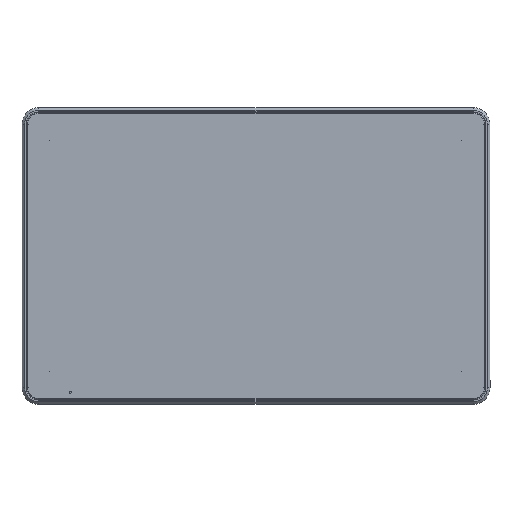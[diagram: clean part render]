
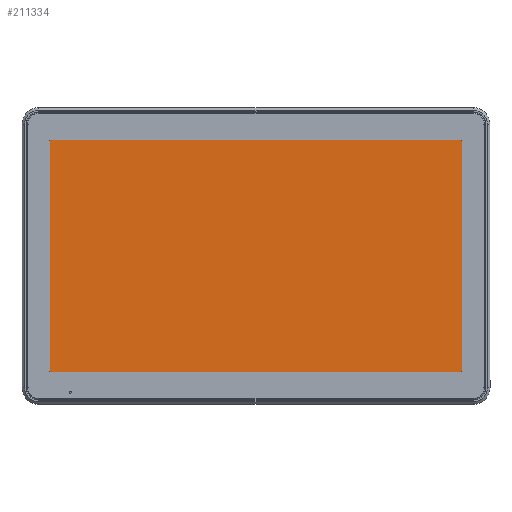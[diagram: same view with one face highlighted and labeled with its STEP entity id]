
A CAD part, top view. The second image highlights one B-rep face of the part: STEP entity #211334.
In plain terms, the highlighted planar face has unit normal (0, 0, 1).
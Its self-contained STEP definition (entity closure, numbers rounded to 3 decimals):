
#15497=FACE_OUTER_BOUND('',#26362,.T.);
#26362=EDGE_LOOP('',(#173401,#173402,#173403,#173404));
#50747=LINE('',#347311,#72933);
#50750=LINE('',#347317,#72936);
#50753=LINE('',#347323,#72939);
#50756=LINE('',#347327,#72942);
#72933=VECTOR('',#265840,10.);
#72936=VECTOR('',#265845,10.);
#72939=VECTOR('',#265850,10.);
#72942=VECTOR('',#265855,10.);
#92717=VERTEX_POINT('',#347308);
#92718=VERTEX_POINT('',#347310);
#92720=VERTEX_POINT('',#347316);
#92722=VERTEX_POINT('',#347322);
#120518=EDGE_CURVE('',#92718,#92717,#50747,.T.);
#120521=EDGE_CURVE('',#92720,#92718,#50750,.T.);
#120524=EDGE_CURVE('',#92722,#92720,#50753,.T.);
#120527=EDGE_CURVE('',#92717,#92722,#50756,.T.);
#173401=ORIENTED_EDGE('',*,*,#120518,.T.);
#173402=ORIENTED_EDGE('',*,*,#120527,.T.);
#173403=ORIENTED_EDGE('',*,*,#120524,.T.);
#173404=ORIENTED_EDGE('',*,*,#120521,.T.);
#192272=PLANE('',#224040);
#211334=ADVANCED_FACE('',(#15497),#192272,.T.);
#224040=AXIS2_PLACEMENT_3D('',#347392,#265925,#265926);
#265840=DIRECTION('',(1.,0.,0.));
#265845=DIRECTION('',(0.,-1.,0.));
#265850=DIRECTION('',(-1.,0.,0.));
#265855=DIRECTION('',(0.,1.,0.));
#265925=DIRECTION('center_axis',(0.,0.,
1.));
#265926=DIRECTION('ref_axis',(-1.,0.,0.));
#347308=CARTESIAN_POINT('',(204.6,-115.9,2.998));
#347310=CARTESIAN_POINT('',(-205.6,-115.9,2.998));
#347311=CARTESIAN_POINT('',(-0.375,-115.9,2.998));
#347316=CARTESIAN_POINT('',(-205.6,114.9,2.998));
#347317=CARTESIAN_POINT('',(-205.6,-58.25,2.998));
#347322=CARTESIAN_POINT('',(204.6,114.9,2.998));
#347323=CARTESIAN_POINT('',(-102.925,114.9,2.998));
#347327=CARTESIAN_POINT('',(204.6,-0.55,2.998));
#347392=CARTESIAN_POINT('Origin',(-0.25,-0.6,
2.998));
